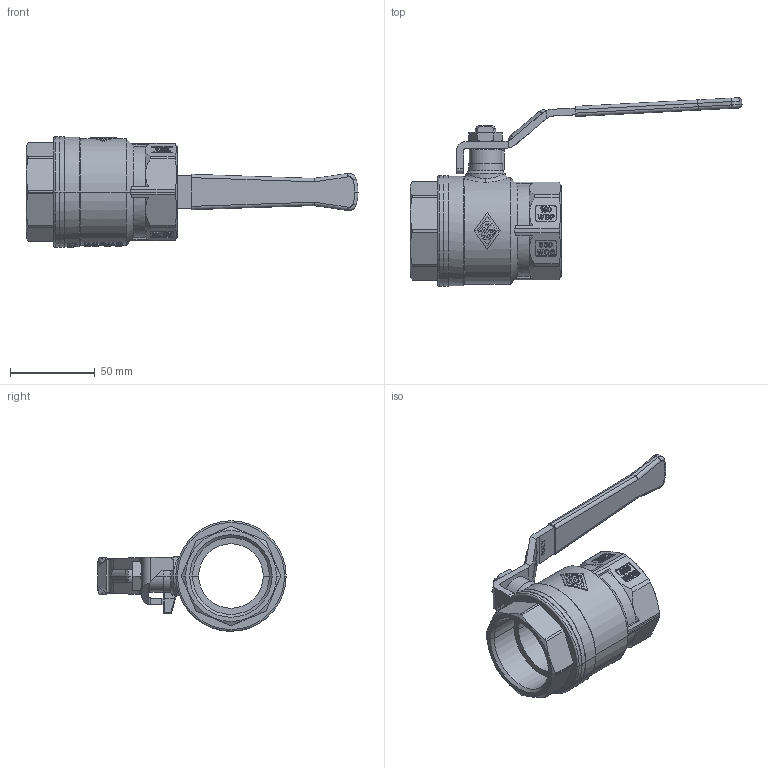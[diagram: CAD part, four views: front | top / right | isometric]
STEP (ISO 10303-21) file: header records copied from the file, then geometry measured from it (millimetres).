
FILE_DESCRIPTION(('CoCreate Modeling STEP Export'),'2;1');
FILE_NAME('1510080000.stp','2010-11-23T13:48:38',(''),(''),'CoCreate Modeling STEP processor for AP214 (Solid Model)','CoCreate Modeling 16.00D 29-May-2009 (C) Parametric Technology GmbH','');
FILE_SCHEMA(('AUTOMOTIVE_DESIGN { 1 0 10303 214 1 1 1 1 }'));
Products named in the file (2): 1510080000
Assembly tree (1 placements, depth 2):
  1510080000
    1510080000
Bounding box: 195.45 x 110.89 x 65 mm (x, y, z)
Volume: 154845 mm3; surface area: 43532.2 mm2
Topology: 1 solids, 1 shells, 2156 faces, 6111 edges, 4022 vertices
Faces by surface type: plane 1816, cylinder 235, cone 65, torus 19, sphere 11, bspline 10
Entity records: 81532 total; most frequent: CARTESIAN_POINT 23949, ORIENTED_EDGE 12196, DIRECTION 11112, EDGE_CURVE 6098, VECTOR 4116, LINE 4116, VERTEX_POINT 4022, AXIS2_PLACEMENT_3D 3498
